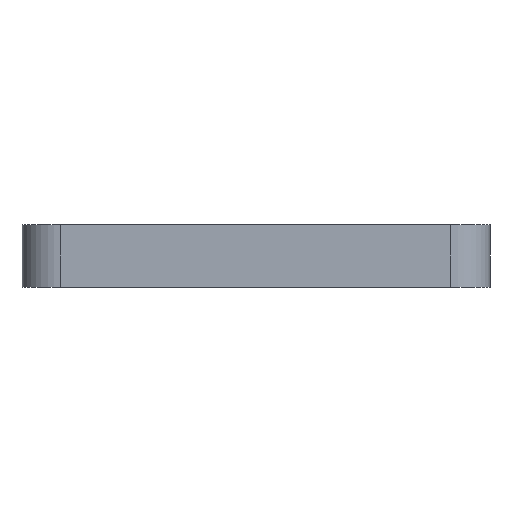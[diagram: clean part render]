
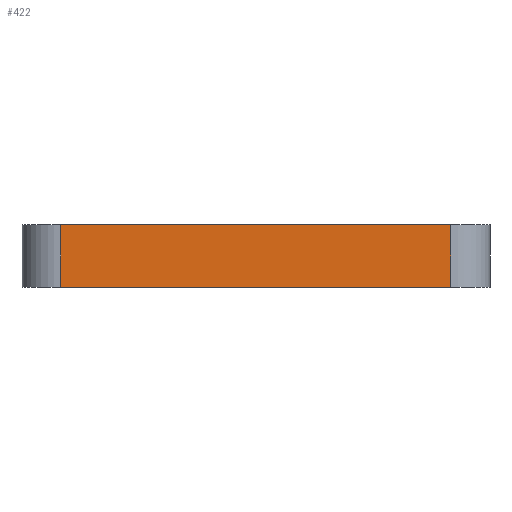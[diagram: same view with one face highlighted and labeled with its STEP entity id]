
A CAD part, left-side view. The second image highlights one B-rep face of the part: STEP entity #422.
In plain terms, the highlighted planar face has unit normal (-1, 0, 0).
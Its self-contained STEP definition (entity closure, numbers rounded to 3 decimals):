
#395=AXIS2_PLACEMENT_3D('Plane Axis2P3D',#392,#393,#394) ;
#37=CARTESIAN_POINT('Line Origine',(0.,-30.,8.)) ;
#41=CARTESIAN_POINT('Vertex',(0.,-5.,8.)) ;
#43=CARTESIAN_POINT('Vertex',(0.,-55.,8.)) ;
#392=CARTESIAN_POINT('Axis2P3D Location',(0.,0.,0.)) ;
#397=CARTESIAN_POINT('Line Origine',(0.,-30.,0.)) ;
#401=CARTESIAN_POINT('Vertex',(0.,-5.,0.)) ;
#403=CARTESIAN_POINT('Vertex',(0.,-55.,0.)) ;
#406=CARTESIAN_POINT('Line Origine',(0.,-55.,4.)) ;
#411=CARTESIAN_POINT('Line Origine',(0.,-5.,4.)) ;
#38=DIRECTION('Vector Direction',(0.,-1.,0.)) ;
#393=DIRECTION('Axis2P3D Direction',(-1.,0.,0.)) ;
#394=DIRECTION('Axis2P3D XDirection',(0.,-1.,0.)) ;
#398=DIRECTION('Vector Direction',(0.,-1.,0.)) ;
#407=DIRECTION('Vector Direction',(0.,0.,1.)) ;
#412=DIRECTION('Vector Direction',(0.,0.,1.)) ;
#39=VECTOR('Line Direction',#38,1.) ;
#399=VECTOR('Line Direction',#398,1.) ;
#408=VECTOR('Line Direction',#407,1.) ;
#413=VECTOR('Line Direction',#412,1.) ;
#417=ORIENTED_EDGE('',*,*,#405,.T.) ;
#418=ORIENTED_EDGE('',*,*,#410,.T.) ;
#419=ORIENTED_EDGE('',*,*,#45,.F.) ;
#420=ORIENTED_EDGE('',*,*,#415,.F.) ;
#422=ADVANCED_FACE('\X2\96F64EF651E04F554F53\X0\',(#421),#396,.T.) ;
#45=EDGE_CURVE('',#42,#44,#40,.T.) ;
#405=EDGE_CURVE('',#402,#404,#400,.T.) ;
#410=EDGE_CURVE('',#404,#44,#409,.T.) ;
#415=EDGE_CURVE('',#402,#42,#414,.T.) ;
#416=EDGE_LOOP('',(#417,#418,#419,#420)) ;
#421=FACE_OUTER_BOUND('',#416,.T.) ;
#40=LINE('Line',#37,#39) ;
#400=LINE('Line',#397,#399) ;
#409=LINE('Line',#406,#408) ;
#414=LINE('Line',#411,#413) ;
#396=PLANE('',#395) ;
#42=VERTEX_POINT('',#41) ;
#44=VERTEX_POINT('',#43) ;
#402=VERTEX_POINT('',#401) ;
#404=VERTEX_POINT('',#403) ;
